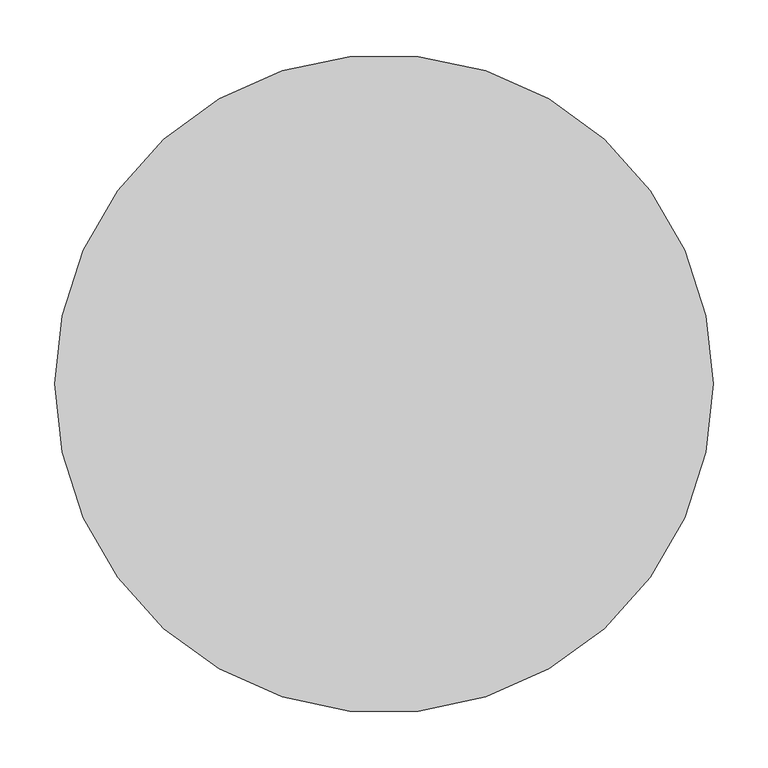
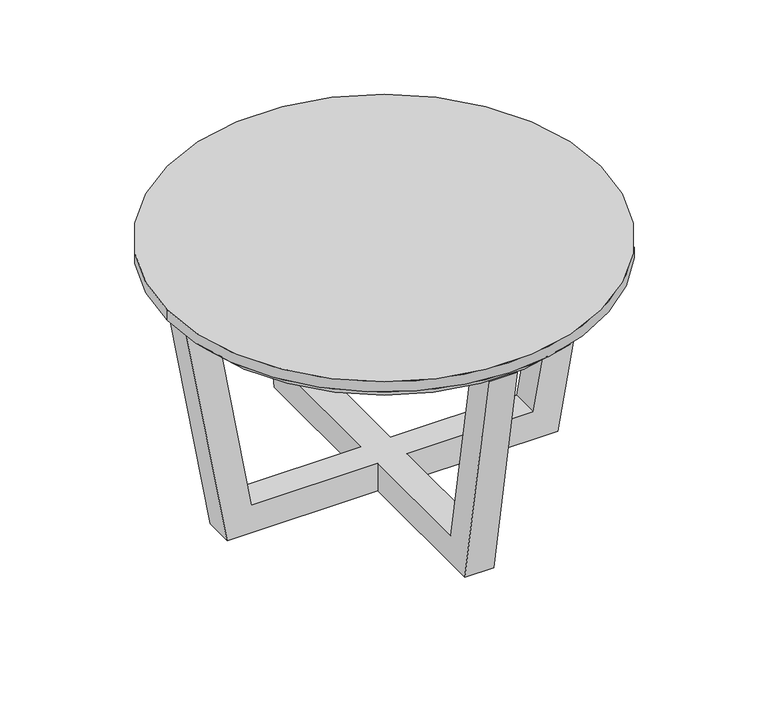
"""IFC4 building model written with IfcOpenShell, lengths in millimetres: furniture geometry, Furniture-Sofa-LyndonDesign-Us_US_25 : Furniture-Sofa-LyndonDesign-Us_US_25."""

from ifc_helpers import new_model, si_unit, frame, origin, place, context, project, spatial, polyline, circle_curve, faceted_brep, source, transform, mapped, element, save
from ifc_brep_helpers import plane_surface, cylinder_surface, revolved_surface, advanced_brep


def furniture_1e2bf395(model_context):
    return source(origin(), model_context, "Body", "SolidModel", [
        advanced_brep(
        [(-300.0, 0.0, 350.0), (300.0, 0.0, 350.0), (285.0000002, 0.0, 320.0), (-285.0000002, 0.0, 320.0), (-300.0, 0.0, 335.0), (300.0, 0.0, 335.0)],
        [
            (0, 1, circle_curve(frame((0.0, 0.0, 350.0), z_axis=(0.0, 0.0, 1.0), x_axis=(1.0, 0.0, 0.0)), 300.0)),
            (1, 0, circle_curve(frame((0.0, 0.0, 350.0), z_axis=(0.0, 0.0, 1.0), x_axis=(1.0, 0.0, 0.0)), 300.0)),
            (2, 3, circle_curve(frame((0.0, 0.0, 320.0), z_axis=(0.0, 0.0, -1.0), x_axis=(1.0, 0.0, 0.0)), 285.0000002)),
            (3, 2, circle_curve(frame((0.0, 0.0, 320.0), z_axis=(0.0, 0.0, -1.0), x_axis=(-1.0, 0.0, 0.0)), 285.0000002)),
            (0, 4),
            (4, 5, circle_curve(frame((0.0, 0.0, 335.0), z_axis=(0.0, 0.0, 1.0), x_axis=(1.0, 0.0, 0.0)), 300.0)),
            (5, 1),
            (5, 4, circle_curve(frame((0.0, 0.0, 335.0), z_axis=(0.0, 0.0, 1.0), x_axis=(1.0, 0.0, 0.0)), 300.0)),
            (4, 3),
            (2, 5),
        ],
        [
            plane_surface(frame((300.0, 0.0, 350.0), z_axis=(0.0, 0.0, 1.0), x_axis=(0.0, 1.0, 0.0))),
            plane_surface(frame((300.0, 0.0, 320.0), z_axis=(0.0, 0.0, -1.0), x_axis=(0.0, -1.0, 0.0))),
            cylinder_surface(frame((0.0, 0.0, 320.0), z_axis=(0.0, 0.0, 1.0), x_axis=(1.0, 0.0, 0.0)), 300.0),
            revolved_surface(polyline([(300.0, 0.0, 335.0), (285.0000002, 0.0, 320.0)]), (0.0, 0.0, 350.0), (0.0, 0.0, -1.0)),
            revolved_surface(polyline([(-300.0, 0.0, 335.0), (-285.0000002, 0.0, 320.0)]), (0.0, 0.0, 350.0), (0.0, 0.0, -1.0)),
        ],
        [
            (0, [[1, 2]]),
            (1, [[3, 4]]),
            (2, [[-1, 5, 6, 7]]),
            (2, [[-2, -7, 8, -5]]),
            (3, [[9, -3, 10, -6]]),
            (4, [[-9, -8, -10, -4]]),
        ],
    ),
        faceted_brep([(-228.5753662, 20.0000003, 0.0), (-285.0, 20.0000003, 320.0), (-244.3829355, 20.0000003, 320.0), (-195.0113809, 20.0000003, 40.0), (-20.0, 20.0000002, 40.0), (-20.0, 20.0000002, 0.0), (195.011381, 20.0000001, 40.0), (244.3829356, 20.0000001, 320.0), (285.0, 20.0000001, 320.0), (228.5753662, 20.0000001, 0.0), (20.0, 20.0000002, 0.0), (20.0, 20.0000002, 40.0), (228.5753662, -19.9999999, 0.0), (285.0, -19.9999999, 320.0), (244.3829355, -19.9999999, 320.0), (195.0113809, -19.9999999, 40.0), (20.0, -19.9999998, 40.0), (20.0, -19.9999998, 0.0), (-195.0113809, -19.9999997, 40.0), (-244.3829355, -19.9999997, 320.0), (-285.0, -19.9999997, 320.0), (-228.5753662, -19.9999997, 0.0), (-20.0, -19.9999998, 0.0), (-20.0, -19.9999998, 40.0), (-20.0000001, -195.0113807, 40.0), (19.9999999, -195.0113808, 40.0), (20.0000001, 195.0113811, 40.0), (-19.9999999, 195.0113811, 40.0), (-19.9999998, 228.5753664, 0.0), (20.0000002, 228.5753664, 0.0), (19.9999999, -228.575366, 0.0), (-20.0000001, -228.575366, 0.0), (20.0000002, 285.0000002, 320.0), (20.0000002, 244.3829357, 320.0), (19.9999999, -244.3829353, 320.0), (19.9999998, -284.9999998, 320.0), (-20.0000002, -284.9999998, 320.0), (-20.0000001, -244.3829353, 320.0), (-19.9999998, 244.3829357, 320.0), (-19.9999998, 285.0000002, 320.0)], [[[0, 1, 2, 3, 4, 5]], [[6, 7, 8, 9, 10, 11]], [[12, 13, 14, 15, 16, 17]], [[18, 19, 20, 21, 22, 23]], [[1, 0, 21, 20]], [[2, 1, 20, 19]], [[3, 2, 19, 18]], [[3, 18, 23, 24, 25, 16, 15, 6, 11, 26, 27, 4]], [[21, 0, 5, 28, 29, 10, 9, 12, 17, 30, 31, 22]], [[7, 6, 15, 14]], [[8, 7, 14, 13]], [[9, 8, 13, 12]], [[29, 32, 33, 26, 11, 10]], [[25, 34, 35, 30, 17, 16]], [[31, 36, 37, 24, 23, 22]], [[27, 38, 39, 28, 5, 4]], [[32, 29, 28, 39]], [[33, 32, 39, 38]], [[26, 33, 38, 27]], [[34, 25, 24, 37]], [[35, 34, 37, 36]], [[30, 35, 36, 31]]]),
    ])


if __name__ == "__main__":
    model = new_model("IFC4")
    model_context = context("Model", 3, world=origin())
    ifc_project = project(units=[si_unit("LENGTHUNIT", "METRE", prefix="MILLI")], contexts=[model_context])
    site = spatial("IfcSite", under=ifc_project)
    building = spatial("IfcBuilding", under=site)
    placement = place(None, origin())
    furniture_shape = furniture_1e2bf395(model_context)
    element("IfcFurniture", 1, ObjectType="Furniture-Sofa-LyndonDesign-Us_US_25 : Furniture-Sofa-LyndonDesign-Us_US_25", at=placement, inside=building, context=model_context, shape_type="MappedRepresentation", body=[
        mapped(furniture_shape, transform((0.0, 0.0, 0.0), x_axis=(1.0, 0.0, 0.0), y_axis=(0.0, 1.0, 0.0), z_axis=(0.0, 0.0, 1.0))),
    ])
    save(model, "model.ifc")
